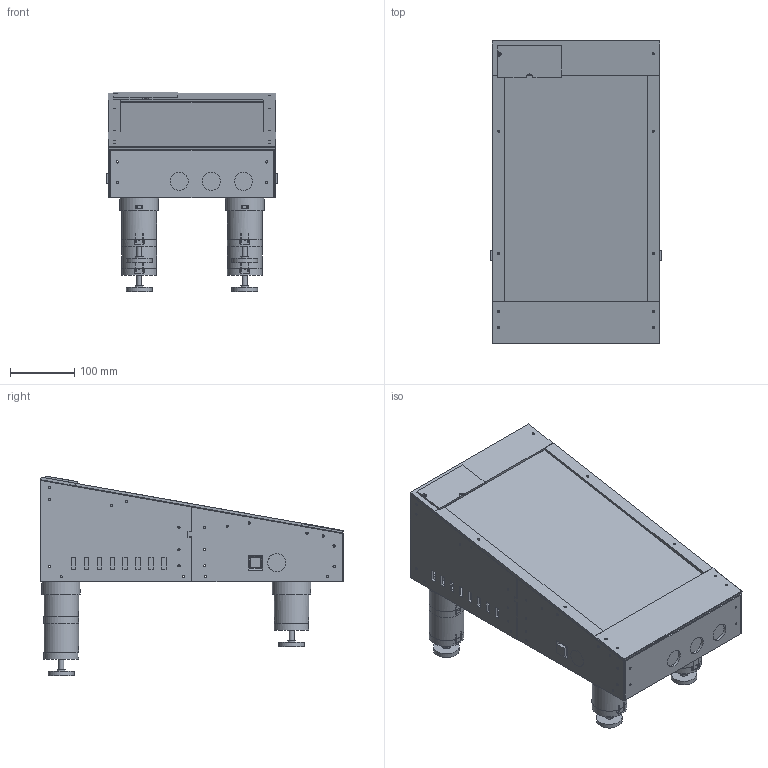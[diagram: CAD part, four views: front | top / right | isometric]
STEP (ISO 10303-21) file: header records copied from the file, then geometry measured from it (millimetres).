
FILE_DESCRIPTION(('Open CASCADE Model'),'2;1');
FILE_NAME('Open CASCADE Shape Model','2026-11-15T21:26:53',('Author'),( 'Open CASCADE'),'Open CASCADE STEP processor 7.8','Open CASCADE 7.8' ,'Unknown');
FILE_SCHEMA(('AUTOMOTIVE_DESIGN { 1 0 10303 214 1 1 1 1 }'));
Length unit declared in the file: millimetre
Products named in the file (107): Mini_VPin_Prototype_V1_19; left_front_wall; left_rear_wall; right_front_wall; right_rear_wall; front_button_panel; rear_vent_panel; corner_left_front_24; corner_left_front_56; corner_left_rear_24; corner_left_rear_128; corner_right_front_24; corner_right_front_56; corner_right_rear_24; corner_right_rear_128; splice_left; splice_right; floor_block_left_28; floor_block_left_218; floor_block_left_252; floor_block_left_442; floor_block_right_28; floor_block_right_218; floor_block_right_252; floor_block_right_442; bottom_front; bottom_rear; foot_backing_left_front; foot_receiver_left_front; foot_m6_nut_clip_receiver_left_front; foot_m8_terminal_core_left_front_55mm; foot_m8_terminal_sleeve_left_front_55mm; foot_m8_terminal_bolt_key_left_front_55mm; foot_m8_nut_clip_terminal_left_front; REFERENCE_swivel_rubber_pad_left_front; foot_backing_left_rear; foot_receiver_left_rear; foot_m6_nut_clip_receiver_left_rear; foot_twist_core_left_rear_1_45mm; foot_lock_sleeve_left_rear_1_45mm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
Assembly tree (106 placements, depth 2):
  Mini_VPin_Prototype_V1_19
    left_front_wall
    left_rear_wall
    right_front_wall
    right_rear_wall
    front_button_panel
    rear_vent_panel
    corner_left_front_24
    corner_left_front_56
    corner_left_rear_24
    corner_left_rear_128
    corner_right_front_24
    corner_right_front_56
    corner_right_rear_24
    corner_right_rear_128
    splice_left
    splice_right
    floor_block_left_28
    floor_block_left_218
    floor_block_left_252
    floor_block_left_442
    floor_block_right_28
    floor_block_right_218
    floor_block_right_252
    floor_block_right_442
    bottom_front
    bottom_rear
    foot_backing_left_front
    foot_receiver_left_front
    foot_m6_nut_clip_receiver_left_front
    foot_m8_terminal_core_left_front_55mm
    foot_m8_terminal_sleeve_left_front_55mm
    foot_m8_terminal_bolt_key_left_front_55mm
    foot_m8_nut_clip_terminal_left_front
    REFERENCE_swivel_rubber_pad_left_front
    foot_backing_left_rear
    foot_receiver_left_rear
    foot_m6_nut_clip_receiver_left_rear
    foot_twist_core_left_rear_1_45mm
    foot_lock_sleeve_left_rear_1_45mm
    foot_bolt_key_left_rear_1_45mm
    foot_m6_nut_clip_upper_left_rear_1_45mm
    foot_m8_terminal_core_left_rear_55mm
    foot_m8_terminal_sleeve_left_rear_55mm
    foot_m8_terminal_bolt_key_left_rear_55mm
    foot_m8_nut_clip_terminal_left_rear
    REFERENCE_swivel_rubber_pad_left_rear
    foot_backing_right_front
    foot_receiver_right_front
    foot_m6_nut_clip_receiver_right_front
    foot_m8_terminal_core_right_front_55mm
    foot_m8_terminal_sleeve_right_front_55mm
    foot_m8_terminal_bolt_key_right_front_55mm
    foot_m8_nut_clip_terminal_right_front
    REFERENCE_swivel_rubber_pad_right_front
    foot_backing_right_rear
    foot_receiver_right_rear
    foot_m6_nut_clip_receiver_right_rear
    foot_twist_core_right_rear_1_45mm
    foot_lock_sleeve_right_rear_1_45mm
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Bounding box: 267 x 470.54 x 310.59 mm (x, y, z)
Volume: 8213445.2 mm3; surface area: 1688817.6 mm2
Topology: 106 solids, 106 shells, 2441 faces, 6185 edges, 4104 vertices
Faces by surface type: plane 2086, cylinder 329, extrusion 20, bspline 4, cone 2
Full cylindrical faces by diameter (mm): 3.4 x158, 4.5 x4, 5.5 x48, 6 x2, 6.4 x2, 6.7 x18, 8 x4, 8.7 x8, 12 x4, 17 x16, 27.8 x2, 28 x5, 40 x6, 50 x4, 54 x12, 60 x4
Entity records: 165169 total; most frequent: CARTESIAN_POINT 39442, DIRECTION 21589, VECTOR 14307, LINE 14287, ORIENTED_EDGE 12370, PCURVE 12370, DEFINITIONAL_REPRESENTATION 12370, EDGE_CURVE 6185
